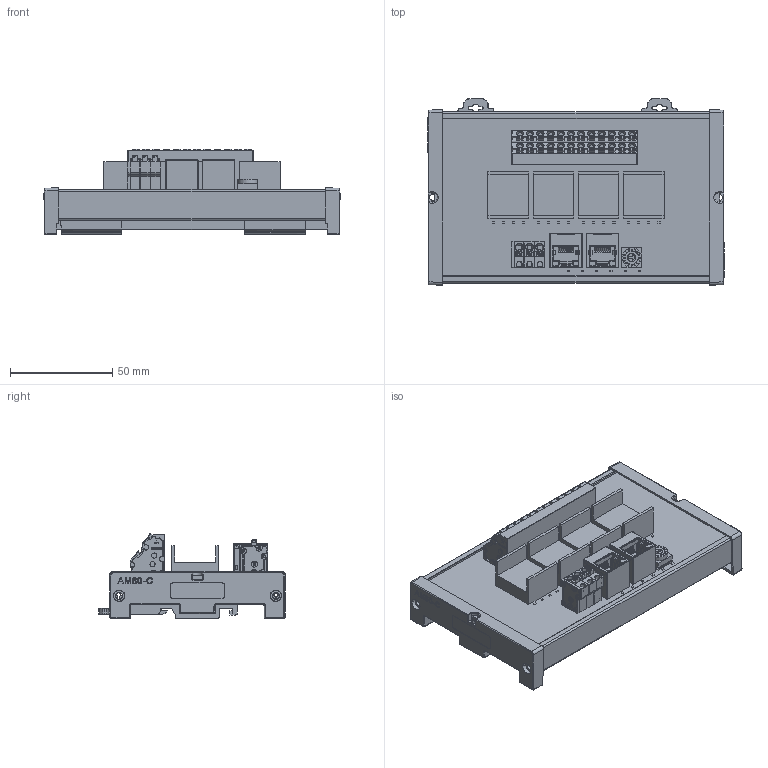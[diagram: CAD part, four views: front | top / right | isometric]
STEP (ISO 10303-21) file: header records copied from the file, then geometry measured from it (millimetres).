
FILE_DESCRIPTION((''),'2;1');
FILE_NAME('XBF2D_16_SW0001','2026-03-05T18:29:38',('Administrator'),(''),'CREO PARAMETRIC BY PTC INC, 2022073','CREO PARAMETRIC BY PTC INC, 2022073','');
FILE_SCHEMA(('CONFIG_CONTROL_DESIGN'));
Products named in the file (1): XBF2D_16_SW0001
Bounding box: 145.2 x 91.33 x 41.85 mm (x, y, z)
Volume: 136406 mm3; surface area: 101183.3 mm2
Topology: 22 solids, 23 shells, 6005 faces, 16711 edges, 10857 vertices
Faces by surface type: plane 3579, cylinder 1251, extrusion 541, cone 250, sphere 138, bspline 130, torus 116
Entity records: 222957 total; most frequent: CARTESIAN_POINT 73481, ORIENTED_EDGE 33086, DIRECTION 27483, EDGE_CURVE 16543, VECTOR 11431, LINE 10890, VERTEX_POINT 10857, AXIS2_PLACEMENT_3D 8026
